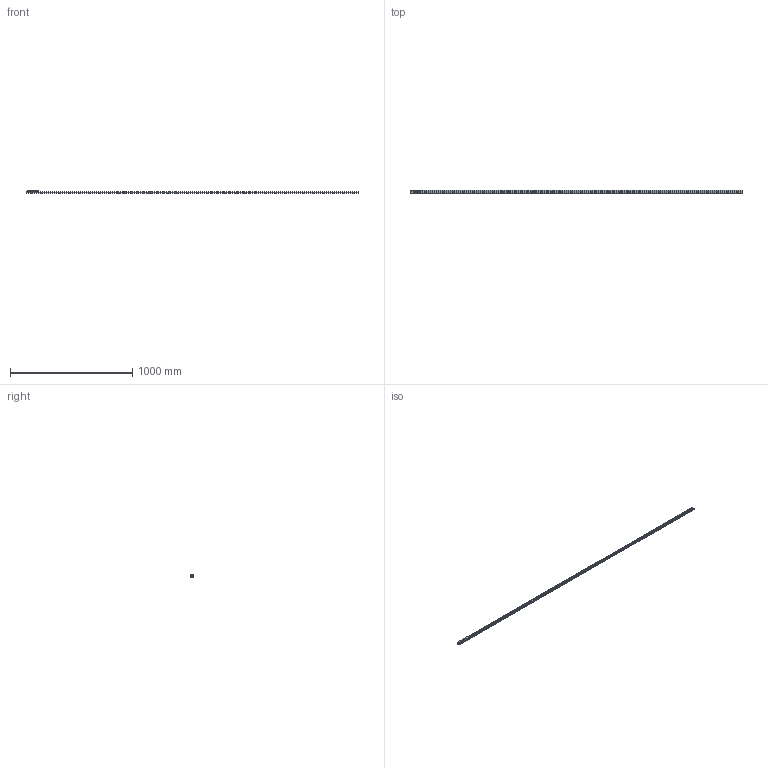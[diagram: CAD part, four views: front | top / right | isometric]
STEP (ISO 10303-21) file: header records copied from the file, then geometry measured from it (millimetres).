
FILE_DESCRIPTION( ( 'STEP AP214' ), '1' );
FILE_NAME( 'p:/temp/worker_22/temp/exporttempdir_3544_356_dSyWC/format_1/TEN26-2720-CEN26-92.stp', '2020-05-08T18:53:53', ( 'License CC BY-ND 4.0' ), ( 'CADENAS' ), ' ', 'PARTsolutions', ' ' );
FILE_SCHEMA( ( 'AUTOMOTIVE_DESIGN { 1 0 10303 214 1 1 1 1 }' ) );
Length unit declared in the file: millimetre
Products named in the file (6): TEN26-2720-CEN26-92; _TEN 26-2720; _CEN26-92_1; _RLN26(11.2_M5); _RLA26(11.2_M5); _LAN-26
Assembly tree (8 placements, depth 2):
  TEN26-2720-CEN26-92
    _TEN 26-2720
    _CEN26-92_1
    _RLN26(11.2_M5)  x2
    _RLA26(11.2_M5)
    _LAN-26  x3
Bounding box: 2720 x 26 x 22 mm (x, y, z)
Volume: 294141.4 mm3; surface area: 249305.6 mm2
Topology: 8 solids, 8 shells, 267 faces, 603 edges, 379 vertices
Faces by surface type: plane 131, cylinder 103, cone 24, bspline 9
Full cylindrical faces by diameter (mm): 2.5 x2, 4.134 x5, 4.5 x3, 5 x6, 6.5 x34, 9.3 x3, 11.2 x6, 11.6 x6, 15.7 x6, 16.7 x6
Entity records: 6686 total; most frequent: CARTESIAN_POINT 955, DIRECTION 916, ORIENTED_EDGE 670, AXIS2_PLACEMENT_3D 394, EDGE_LOOP 368, EDGE_CURVE 335, VERTEX_POINT 265, FACE_OUTER_BOUND 252
